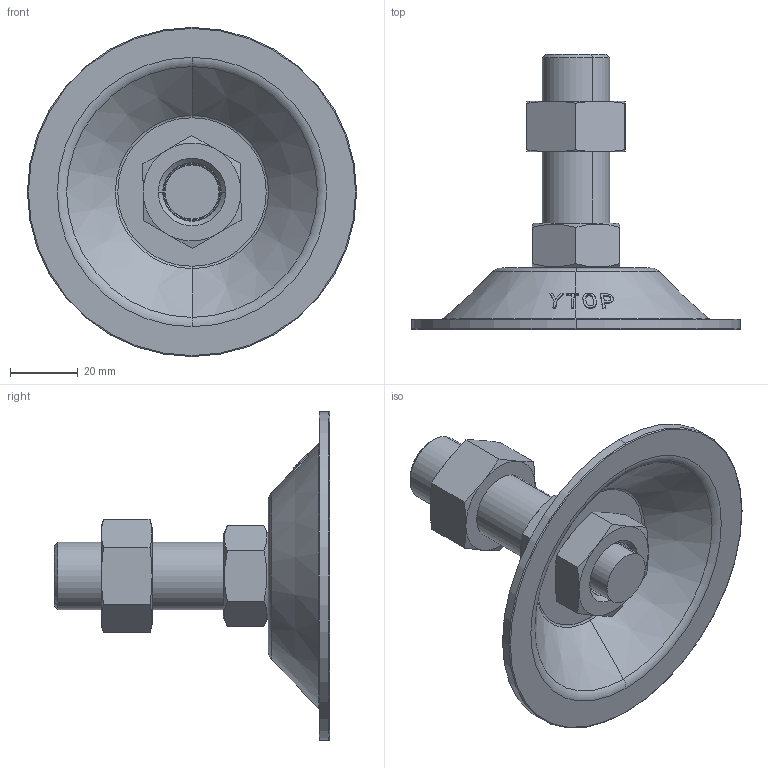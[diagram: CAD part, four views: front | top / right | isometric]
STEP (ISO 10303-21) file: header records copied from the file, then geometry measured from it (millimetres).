
FILE_DESCRIPTION (( 'STEP AP203' ), '1' );
FILE_NAME ('N-100-2050-S.STEP', '2020-09-10T08:07:03', ( '' ), ( '' ), 'SwSTEP 2.0', 'SolidWorks 2016', '' );
FILE_SCHEMA (( 'CONFIG_CONTROL_DESIGN' ));
Length unit declared in the file: millimetre
Products named in the file (5): N-100-2050-S; 脚垫锁紧六角薄螺母M20; H-100-3P H倰100菁釱; 不锈钢双头螺杆M20系列_M20X50; 脚垫调节六角螺母M20
Assembly tree (4 placements, depth 2):
  N-100-2050-S
    H-100-3P H倰100菁釱
    不锈钢双头螺杆M20系列_M20X50
    脚垫锁紧六角薄螺母M20
    脚垫调节六角螺母M20
Bounding box: 97.5 x 81.5 x 97.5 mm (x, y, z)
Volume: 64341.6 mm3; surface area: 29774.4 mm2
Topology: 4 solids, 4 shells, 144 faces, 335 edges, 208 vertices
Faces by surface type: cone 52, bspline 38, plane 30, torus 12, cylinder 12
Entity records: 8480 total; most frequent: CARTESIAN_POINT 5072, ORIENTED_EDGE 670, DIRECTION 475, EDGE_CURVE 335, AXIS2_PLACEMENT_3D 211, VERTEX_POINT 208, B_SPLINE_CURVE_WITH_KNOTS 184, EDGE_LOOP 159
